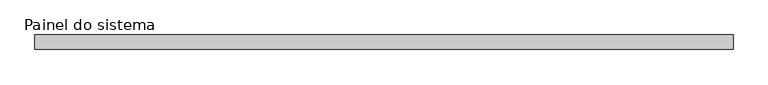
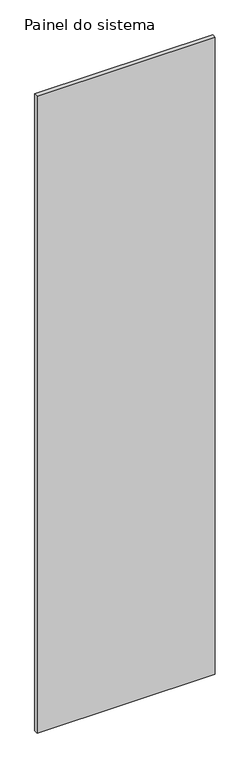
"""IFC4 building model written with IfcOpenShell, lengths in millimetres: plate geometry, Painel do sistema : Gradil Alambrado."""

import ifcopenshell
import ifcopenshell.guid

model = None  # the IFC model being written
_history = None  # IfcOwnerHistory: only IFC2X3 demands one
_inside = {}  # id of a spatial element -> (the spatial element, [elements in it])
_under = {}  # id of a project, library or spatial element -> (it, [spatial elements below it])
_declared = {}  # id of a project -> (the project, [libraries it declares])
_typed = {}  # id of a type object -> (the type object, [elements of that type])
_made_of = {}  # id of a material, layer set ... -> (it, [elements and type objects made of it])


def new_model(schema):
    """Start an empty IFC model of exactly this schema.

    Asked for "IFC4X3", IfcOpenShell would pick the latest addendum, in which some entities
    have other attributes; the version numbers below select the first issue.
    IFC2X3 requires an IfcOwnerHistory on every rooted entity: one is made here for all.
    """
    global model, _history
    if schema == "IFC4X3":
        model = ifcopenshell.file(schema_version=(4, 3, 0, 0))
    else:
        model = ifcopenshell.file(schema=schema)
    _inside.clear()
    _under.clear()
    _declared.clear()
    _typed.clear()
    _made_of.clear()
    _history = None
    if model.schema == "IFC2X3":
        org = make("IfcOrganization", Name="unknown")
        user = make(
            "IfcPersonAndOrganization",
            ThePerson=make("IfcPerson", FamilyName="unknown"),
            TheOrganization=org,
        )
        app = make(
            "IfcApplication",
            ApplicationDeveloper=org,
            Version="unknown",
            ApplicationFullName="unknown",
            ApplicationIdentifier="unknown",
        )
        _history = make(
            "IfcOwnerHistory",
            OwningUser=user,
            OwningApplication=app,
            ChangeAction="ADDED",
            CreationDate=0,
        )
    return model


def make(cls, **values):
    """One entity of the class cls with the attributes given. An attribute that is None is left unset."""
    return model.create_entity(
        cls, **{name: value for name, value in values.items() if value is not None}
    )


def rooted(cls, **values):
    """An entity with a GlobalId (a new one), such as an element, a storey or a relation."""
    return make(cls, GlobalId=ifcopenshell.guid.new(), OwnerHistory=_history, **values)


def si_unit(unit_type, name, prefix=None):
    """IfcSIUnit, for example si_unit("LENGTHUNIT", "METRE", prefix="MILLI")."""
    return make("IfcSIUnit", UnitType=unit_type, Prefix=prefix, Name=name)


def assignment(units):
    """IfcUnitAssignment: the units of a project."""
    return None if units is None else make("IfcUnitAssignment", Units=units)


def point(xyz):
    """IfcCartesianPoint."""
    return None if xyz is None else make("IfcCartesianPoint", Coordinates=xyz)


def direction(xyz):
    """IfcDirection."""
    return None if xyz is None else make("IfcDirection", DirectionRatios=xyz)


def frame(location, z_axis=None, x_axis=None):
    """IfcAxis2Placement3D, a coordinate frame: its origin and axes. An axis left out is left unset."""
    return make(
        "IfcAxis2Placement3D",
        Location=point(location),
        Axis=direction(z_axis),
        RefDirection=direction(x_axis),
    )


def origin():
    """The frame at (0, 0, 0) with its axes left unset."""
    return frame((0.0, 0.0, 0.0))


def origin_with_axes():
    """The frame at (0, 0, 0) with the z axis (0, 0, 1) and the x axis (1, 0, 0) written out."""
    return frame((0.0, 0.0, 0.0), z_axis=(0.0, 0.0, 1.0), x_axis=(1.0, 0.0, 0.0))


def place(relative_to, where):
    """IfcLocalPlacement: puts the frame where relative to a parent placement (None: the world)."""
    return make(
        "IfcLocalPlacement", PlacementRelTo=relative_to, RelativePlacement=where
    )


def context(
    kind, dimensions, precision=None, world=None, true_north=None, identifier=None
):
    """IfcGeometricRepresentationContext, for example the 3D "Model" context."""
    return make(
        "IfcGeometricRepresentationContext",
        ContextIdentifier=identifier,
        ContextType=kind,
        CoordinateSpaceDimension=dimensions,
        Precision=precision,
        WorldCoordinateSystem=world,
        TrueNorth=true_north,
    )


def project(units=None, contexts=None):
    """IfcProject with its units and contexts."""
    return rooted(
        "IfcProject",
        Name="project",
        RepresentationContexts=contexts,
        UnitsInContext=assignment(units),
    )


def spatial(cls, under=None, at=None, **own):
    """A site, building, storey or space (cls), placed at a placement, below another one or the project."""
    s = rooted(cls, ObjectPlacement=at, **own)
    if under is not None:
        _under.setdefault(under.id(), (under, []))[1].append(s)
    return s


def polyline(points):
    """IfcPolyline through the points."""
    return make("IfcPolyline", Points=[point(p) for p in points])


def outline(outer, holes=None, kind="AREA"):
    """IfcArbitraryClosedProfileDef: a profile drawn as a closed curve; with holes, ...WithVoids."""
    if holes is None:
        return make("IfcArbitraryClosedProfileDef", ProfileType=kind, OuterCurve=outer)
    return make(
        "IfcArbitraryProfileDefWithVoids",
        ProfileType=kind,
        OuterCurve=outer,
        InnerCurves=holes,
    )


def extrude(swept, where, along, depth):
    """IfcExtrudedAreaSolid: the profile swept, set in the frame where, extruded along a direction by depth."""
    return make(
        "IfcExtrudedAreaSolid",
        SweptArea=swept,
        Position=where,
        ExtrudedDirection=direction(along),
        Depth=depth,
    )


def shape(context_of_items, identifier, shape_type, items):
    """IfcShapeRepresentation: the items that make up one representation, for example the "Body"."""
    return make(
        "IfcShapeRepresentation",
        ContextOfItems=context_of_items,
        RepresentationIdentifier=identifier,
        RepresentationType=shape_type,
        Items=items,
    )


def source(mapping_origin, context_of_items, identifier, shape_type, items):
    """IfcRepresentationMap: a shape defined once, which mapped items show again and again."""
    return make(
        "IfcRepresentationMap",
        MappingOrigin=mapping_origin,
        MappedRepresentation=shape(context_of_items, identifier, shape_type, items),
    )


def transform(
    local_origin,
    x_axis=None,
    y_axis=None,
    z_axis=None,
    scale=None,
    scale2=None,
    scale3=None,
    uniform=True,
):
    """IfcCartesianTransformationOperator3D, or its non-uniform kind. x_axis, y_axis, z_axis: its Axis1, 2, 3."""
    if uniform:
        return make(
            "IfcCartesianTransformationOperator3D",
            Axis1=direction(x_axis),
            Axis2=direction(y_axis),
            LocalOrigin=point(local_origin),
            Scale=scale,
            Axis3=direction(z_axis),
        )
    return make(
        "IfcCartesianTransformationOperator3DnonUniform",
        Axis1=direction(x_axis),
        Axis2=direction(y_axis),
        LocalOrigin=point(local_origin),
        Scale=scale,
        Axis3=direction(z_axis),
        Scale2=scale2,
        Scale3=scale3,
    )


def mapped(mapping_source, mapping_target):
    """IfcMappedItem: shows the shape of a source again, moved by a transform."""
    return make(
        "IfcMappedItem", MappingSource=mapping_source, MappingTarget=mapping_target
    )


def made_of(thing, what):
    """Note that an element or type object is made of a material, layer set ...; save() writes the relation."""
    if what is not None:
        _made_of.setdefault(what.id(), (what, []))[1].append(thing)
    return thing


def element(
    cls,
    number,
    at=None,
    inside=None,
    cuts=None,
    type_object=None,
    material=None,
    context=None,
    identifier="Body",
    shape_type=None,
    held_by="IfcProductDefinitionShape",
    body=None,
    shapes=None,
    **own,
):
    """One element of the class cls, such as IfcWall. Its Tag is "e" and its number.

    at: its placement. inside: the storey or other place that contains it. cuts: it is an
    opening in that element (IfcRelVoidsElement). A single representation is given by context,
    identifier, shape_type and body (its items); several are given by shapes. held_by: the class
    of the entity that holds the representations. save() writes the other relations.
    """
    e = rooted(cls, Tag="e%d" % number, ObjectPlacement=at, **own)
    if body is not None:
        shapes = [shape(context, identifier, shape_type, body)]
    if shapes is not None:
        e.Representation = make(held_by, Representations=shapes)
    if inside is not None:
        _inside.setdefault(inside.id(), (inside, []))[1].append(e)
    if cuts is not None:
        rooted(
            "IfcRelVoidsElement", RelatingBuildingElement=cuts, RelatedOpeningElement=e
        )
    if type_object is not None:
        _typed.setdefault(type_object.id(), (type_object, []))[1].append(e)
    return made_of(e, material)


def aggregate(whole, parts):
    """IfcRelAggregates: a whole, such as a stair, and the parts it consists of."""
    return rooted("IfcRelAggregates", RelatingObject=whole, RelatedObjects=parts)


def save(model, path):
    """Write the relations noted so far, then the file.

    IfcRelAggregates (storeys below a building ...), IfcRelContainedInSpatialStructure (elements
    in a storey), IfcRelDefinesByType, IfcRelAssociatesMaterial and IfcRelDeclares: one each for
    every whole, place, type object, material and project.
    """
    for whole, parts in _under.values():
        aggregate(whole, parts)
    for where, things in _inside.values():
        rooted(
            "IfcRelContainedInSpatialStructure",
            RelatedElements=things,
            RelatingStructure=where,
        )
    for kind, things in _typed.values():
        rooted("IfcRelDefinesByType", RelatedObjects=things, RelatingType=kind)
    for what, things in _made_of.values():
        rooted("IfcRelAssociatesMaterial", RelatedObjects=things, RelatingMaterial=what)
    for by, libraries in _declared.values():
        rooted("IfcRelDeclares", RelatingContext=by, RelatedDefinitions=libraries)
    model.write(path)


def painel_do_sistema_5f9e151d(model_context):
    return source(origin(), model_context, "Body", "SweptSolid", [
        extrude(outline(polyline([(601.2459915, -12.5), (-601.2459915, -12.5), (-601.2459915, 12.5), (601.2459915, 12.5), (601.2459915, -12.5)])), origin_with_axes(), (0.0, 0.0, 1.0), 4540.0),
    ])


if __name__ == "__main__":
    model = new_model("IFC4")
    model_context = context("Model", 3, world=origin())
    ifc_project = project(units=[si_unit("LENGTHUNIT", "METRE", prefix="MILLI")], contexts=[model_context])
    site = spatial("IfcSite", under=ifc_project)
    building = spatial("IfcBuilding", under=site)
    placement = place(None, origin())
    painel_do_sistema_shape = painel_do_sistema_5f9e151d(model_context)
    element("IfcPlate", 1, ObjectType="Painel do sistema : Gradil Alambrado", at=placement, inside=building, context=model_context, shape_type="MappedRepresentation", body=[
        mapped(painel_do_sistema_shape, transform((0.0, 0.0, 0.0), x_axis=(1.0, 0.0, 0.0), y_axis=(0.0, 1.0, 0.0), z_axis=(0.0, 0.0, 1.0))),
    ])
    save(model, "model.ifc")
